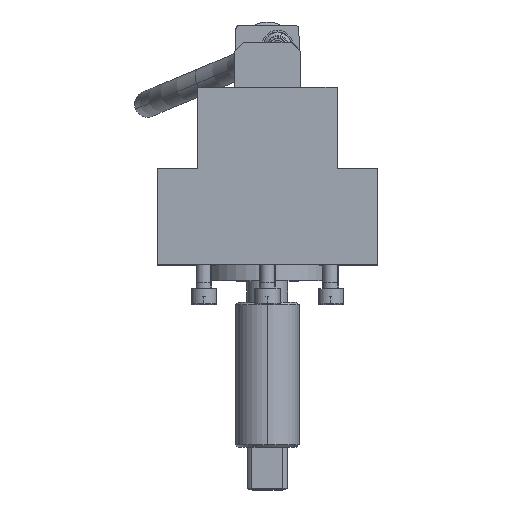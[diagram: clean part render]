
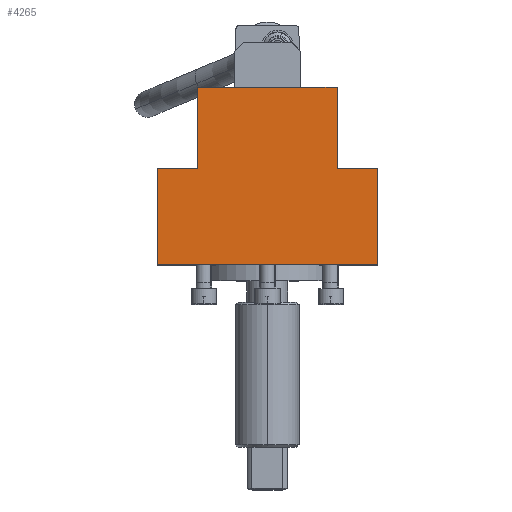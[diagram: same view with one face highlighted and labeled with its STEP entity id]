
A CAD part, top view. The second image highlights one B-rep face of the part: STEP entity #4265.
In plain terms, the highlighted planar face has unit normal (0, 0, 1).
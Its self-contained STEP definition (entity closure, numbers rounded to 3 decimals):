
#4241=AXIS2_PLACEMENT_3D('Plane Axis2P3D',#4238,#4239,#4240) ;
#3755=CARTESIAN_POINT('Vertex',(-69.5,-68.,630.1)) ;
#3758=CARTESIAN_POINT('Line Origine',(-69.5,-37.5,630.1)) ;
#3762=CARTESIAN_POINT('Vertex',(-69.5,-7.,630.1)) ;
#3800=CARTESIAN_POINT('Vertex',(44.,44.,630.1)) ;
#3803=CARTESIAN_POINT('Line Origine',(44.,18.5,630.1)) ;
#3807=CARTESIAN_POINT('Vertex',(44.,-7.,630.1)) ;
#3899=CARTESIAN_POINT('Vertex',(-44.,44.,630.1)) ;
#3902=CARTESIAN_POINT('Line Origine',(0.,44.,630.1)) ;
#4138=CARTESIAN_POINT('Line Origine',(-44.,18.5,630.1)) ;
#4142=CARTESIAN_POINT('Vertex',(-44.,-7.,630.1)) ;
#4164=CARTESIAN_POINT('Line Origine',(56.75,-7.,630.1)) ;
#4168=CARTESIAN_POINT('Vertex',(69.5,-7.,630.1)) ;
#4183=CARTESIAN_POINT('Line Origine',(-56.75,-7.,630.1)) ;
#4238=CARTESIAN_POINT('Axis2P3D Location',(44.,-44.,630.1)) ;
#4243=CARTESIAN_POINT('Line Origine',(0.,-68.,630.1)) ;
#4247=CARTESIAN_POINT('Vertex',(69.5,-68.,630.1)) ;
#4250=CARTESIAN_POINT('Line Origine',(69.5,-37.5,630.1)) ;
#3759=DIRECTION('Vector Direction',(0.,1.,0.)) ;
#3804=DIRECTION('Vector Direction',(0.,1.,0.)) ;
#3903=DIRECTION('Vector Direction',(-1.,0.,0.)) ;
#4139=DIRECTION('Vector Direction',(0.,-1.,0.)) ;
#4165=DIRECTION('Vector Direction',(1.,0.,0.)) ;
#4184=DIRECTION('Vector Direction',(1.,0.,0.)) ;
#4239=DIRECTION('Axis2P3D Direction',(0.,0.,1.)) ;
#4240=DIRECTION('Axis2P3D XDirection',(0.,1.,0.)) ;
#4244=DIRECTION('Vector Direction',(-1.,0.,0.)) ;
#4251=DIRECTION('Vector Direction',(0.,-1.,0.)) ;
#3760=VECTOR('Line Direction',#3759,1.) ;
#3805=VECTOR('Line Direction',#3804,1.) ;
#3904=VECTOR('Line Direction',#3903,1.) ;
#4140=VECTOR('Line Direction',#4139,1.) ;
#4166=VECTOR('Line Direction',#4165,1.) ;
#4185=VECTOR('Line Direction',#4184,1.) ;
#4245=VECTOR('Line Direction',#4244,1.) ;
#4252=VECTOR('Line Direction',#4251,1.) ;
#4256=ORIENTED_EDGE('',*,*,#4187,.T.) ;
#4257=ORIENTED_EDGE('',*,*,#3764,.T.) ;
#4258=ORIENTED_EDGE('',*,*,#4249,.T.) ;
#4259=ORIENTED_EDGE('',*,*,#4254,.T.) ;
#4260=ORIENTED_EDGE('',*,*,#4170,.T.) ;
#4261=ORIENTED_EDGE('',*,*,#3809,.T.) ;
#4262=ORIENTED_EDGE('',*,*,#3906,.T.) ;
#4263=ORIENTED_EDGE('',*,*,#4144,.T.) ;
#4265=ADVANCED_FACE('AW-325.1\\AW3325.1\\Hauptk\X2\00F6\X0\rper',(#4264),#4242,.T.) ;
#3764=EDGE_CURVE('',#3763,#3756,#3761,.F.) ;
#3809=EDGE_CURVE('',#3808,#3801,#3806,.T.) ;
#3906=EDGE_CURVE('',#3801,#3900,#3905,.T.) ;
#4144=EDGE_CURVE('',#3900,#4143,#4141,.T.) ;
#4170=EDGE_CURVE('',#4169,#3808,#4167,.F.) ;
#4187=EDGE_CURVE('',#4143,#3763,#4186,.F.) ;
#4249=EDGE_CURVE('',#3756,#4248,#4246,.F.) ;
#4254=EDGE_CURVE('',#4248,#4169,#4253,.F.) ;
#4255=EDGE_LOOP('',(#4256,#4257,#4258,#4259,#4260,#4261,#4262,#4263)) ;
#4264=FACE_OUTER_BOUND('',#4255,.T.) ;
#3761=LINE('Line',#3758,#3760) ;
#3806=LINE('Line',#3803,#3805) ;
#3905=LINE('Line',#3902,#3904) ;
#4141=LINE('Line',#4138,#4140) ;
#4167=LINE('Line',#4164,#4166) ;
#4186=LINE('Line',#4183,#4185) ;
#4246=LINE('Line',#4243,#4245) ;
#4253=LINE('Line',#4250,#4252) ;
#4242=PLANE('Plane',#4241) ;
#3756=VERTEX_POINT('',#3755) ;
#3763=VERTEX_POINT('',#3762) ;
#3801=VERTEX_POINT('',#3800) ;
#3808=VERTEX_POINT('',#3807) ;
#3900=VERTEX_POINT('',#3899) ;
#4143=VERTEX_POINT('',#4142) ;
#4169=VERTEX_POINT('',#4168) ;
#4248=VERTEX_POINT('',#4247) ;
